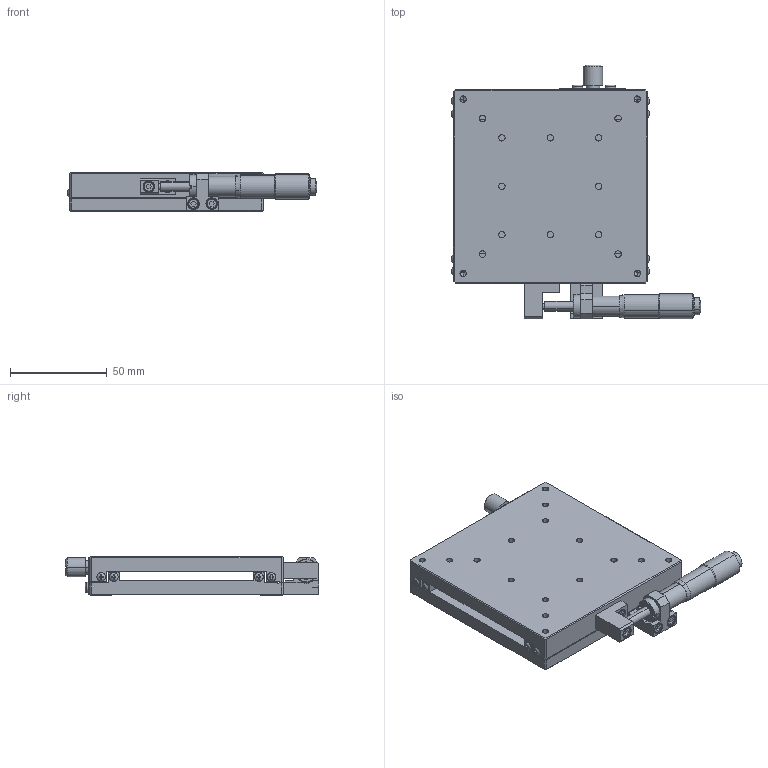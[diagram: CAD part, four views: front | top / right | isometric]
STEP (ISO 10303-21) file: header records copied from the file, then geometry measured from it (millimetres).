
FILE_DESCRIPTION (( 'STEP AP203' ), '1' );
FILE_NAME ('MBX100-L.STEP', '2019-05-02T02:18:54', ( 'User' ), ( 'No' ), 'SwSTEP 2.0', 'SolidWorks 2012', '' );
FILE_SCHEMA (( 'CONFIG_CONTROL_DESIGN' ));
Length unit declared in the file: millimetre
Products named in the file (4): MBX100-L; MT25-1-1; LB100L-2; LB100L-1
Assembly tree (3 placements, depth 2):
  MBX100-L
    LB100L-1
    LB100L-2
    MT25-1-1
Bounding box: 128.81 x 131.1 x 20 mm (x, y, z)
Volume: 169214 mm3; surface area: 61541.3 mm2
Topology: 7 solids, 7 shells, 553 faces, 1464 edges, 948 vertices
Faces by surface type: plane 292, cylinder 194, cone 33, torus 18, sphere 10, bspline 6
Entity records: 20413 total; most frequent: CARTESIAN_POINT 6715, ORIENTED_EDGE 2858, DIRECTION 2575, EDGE_CURVE 1429, VERTEX_POINT 938, AXIS2_PLACEMENT_3D 901, VECTOR 773, LINE 773
